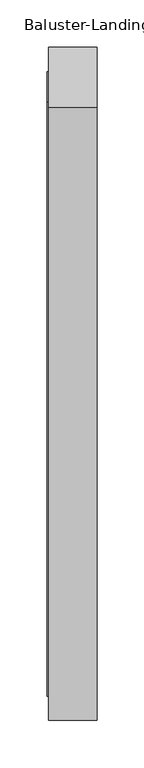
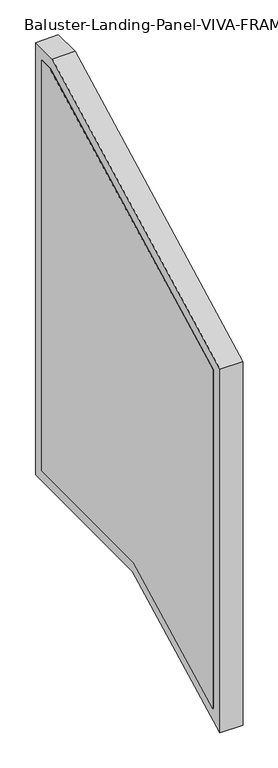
"""IFC4 building model written with IfcOpenShell, lengths in millimetres: railing geometry, Baluster-Landing-Panel-VIVA-FRAME-Lower : Standard_PP01."""

from ifc_helpers import new_model, si_unit, frame, origin, place, context, project, spatial, polyline, outline, extrude, faceted_brep, source, transform, mapped, element, save


def baluster_landing_panel_viva_frame_lower_standard_pp01_411d569d(model_context):
    return source(origin(), model_context, "Body", "SolidModel", [
        extrude(outline(polyline([(328.8734259, -55.8472434), (25.4, -213.8255096), (25.4, 580.1931965), (651.5475888, 906.145), (683.6110088, 906.145), (683.6110088, -55.8472434), (328.8734259, -55.8472434)])), frame((14.2584857, 0.0, 0.0), z_axis=(1.0, 0.0, 0.0), x_axis=(0.0, 1.0, 0.0)), (0.0, 0.0, 1.0), 2.9972),
        faceted_brep([(35.6827057, 5.9329371, -245.9062365), (35.6827057, 5.9329371, 592.0061003), (66.4929057, 5.9329371, 592.0061003), (66.4929057, 5.9329371, -245.9062365), (15.6929057, 50.7385371, -172.0688929), (15.6929057, 50.7385371, 564.8173947), (35.6827057, 50.7385371, 564.8173947), (35.6827057, 50.7385371, -172.0688929), (66.4929057, -0.0614629, -255.784702), (66.4929057, -0.0614629, 595.6435915), (15.6929057, -0.0614629, 595.6435915), (15.6929057, -0.0614629, -255.784702), (35.6827057, 646.7840288, 925.6120629), (66.4929057, 646.7840288, 925.6120629), (15.6929057, 657.7478894, 880.8064629), (35.6827057, 657.7478894, 880.8064629), (66.4929057, 645.3172085, 931.6064629), (15.6929057, 645.3172085, 931.6064629), (35.6827057, 703.0780717, 925.6120629), (66.4929057, 703.0780717, 925.6120629), (15.6929057, 658.2724717, 880.8064629), (35.6827057, 658.2724717, 880.8064629), (66.4929057, 709.0724717, 931.6064629), (15.6929057, 709.0724717, 931.6064629), (35.6827057, 703.0780717, -75.3143063), (66.4929057, 703.0780717, -75.3143063), (15.6929057, 658.2724717, -30.5087063), (35.6827057, 658.2724717, -30.5087063), (66.4929057, 709.0724717, -81.3087063), (15.6929057, 709.0724717, -81.3087063), (35.6827057, 333.6369859, -75.3143063), (66.4929057, 333.6369859, -75.3143063), (15.6929057, 322.6731254, -30.5087063), (35.6827057, 322.6731254, -30.5087063), (66.4929057, 335.1038063, -81.3087063), (15.6929057, 335.1038063, -81.3087063)], [[[0, 1, 2, 3]], [[4, 5, 6, 7]], [[8, 9, 10, 11]], [[1, 12, 13, 2]], [[5, 14, 15, 6]], [[9, 16, 17, 10]], [[12, 18, 19, 13]], [[14, 20, 21, 15]], [[16, 22, 23, 17]], [[18, 24, 25, 19]], [[20, 26, 27, 21]], [[22, 28, 29, 23]], [[24, 30, 31, 25]], [[26, 32, 33, 27]], [[28, 34, 35, 29]], [[22, 16, 9, 8, 34, 28], [3, 2, 13, 19, 25, 31]], [[30, 0, 3, 31]], [[18, 12, 1, 0, 30, 24], [7, 6, 15, 21, 27, 33]], [[32, 4, 7, 33]], [[11, 10, 17, 23, 29, 35], [20, 14, 5, 4, 32, 26]], [[34, 8, 11, 35]]]),
    ])


if __name__ == "__main__":
    model = new_model("IFC4")
    model_context = context("Model", 3, world=origin())
    ifc_project = project(units=[si_unit("LENGTHUNIT", "METRE", prefix="MILLI")], contexts=[model_context])
    site = spatial("IfcSite", under=ifc_project)
    building = spatial("IfcBuilding", under=site)
    placement = place(None, origin())
    baluster_landing_panel_viva_frame_lower_standard_pp01_shape = baluster_landing_panel_viva_frame_lower_standard_pp01_411d569d(model_context)
    element("IfcRailing", 1, ObjectType="Baluster-Landing-Panel-VIVA-FRAME-Lower : Standard_PP01", at=placement, inside=building, context=model_context, shape_type="MappedRepresentation", body=[
        mapped(baluster_landing_panel_viva_frame_lower_standard_pp01_shape, transform((0.0, 0.0, 0.0), x_axis=(1.0, 0.0, 0.0), y_axis=(0.0, 1.0, 0.0), z_axis=(0.0, 0.0, 1.0))),
    ])
    save(model, "model.ifc")
